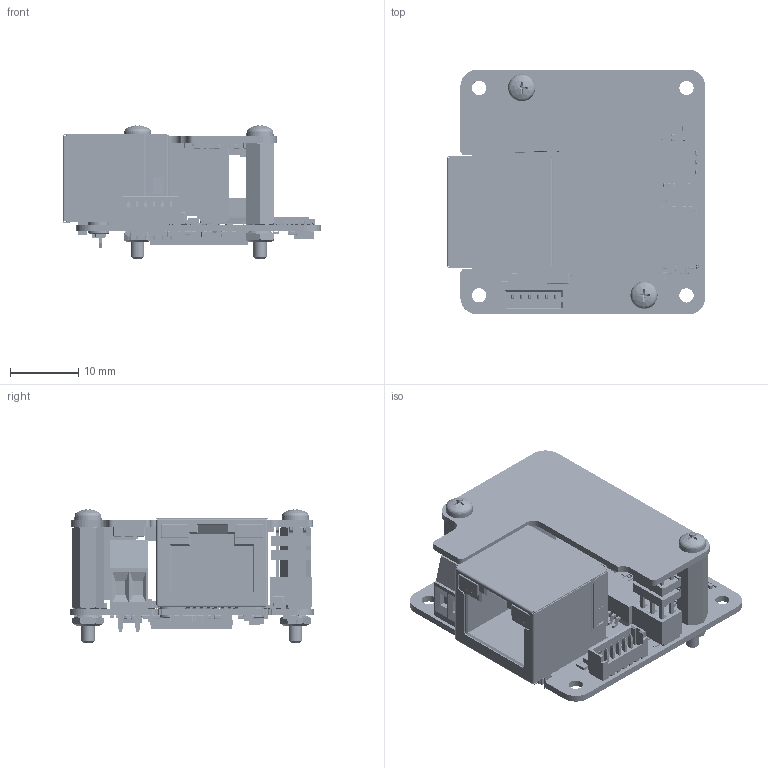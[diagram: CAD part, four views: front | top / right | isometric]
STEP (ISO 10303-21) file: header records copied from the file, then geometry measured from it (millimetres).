
FILE_DESCRIPTION(/* description */ ('ZB Platinen-Kamera'),/* implementation_level */ '2;1');
FILE_NAME(/* name */ 'KSM_306-23-20-00-00_ZB PlatinenKam_GigE-4SB_IMX676_PoE add-on.stp',/* time_stamp */ '2025-10-14T20:33:30+02:00',/* author */ ('khw'),/* organization */ ('TIS/ Germany'),/* preprocessor_version */ 'ST-DEVELOPER v20',/* originating_system */ 'Autodesk Inventor 2025',/* authorisation */ '520025 mm^3');
FILE_SCHEMA (('AUTOMOTIVE_DESIGN { 1 0 10303 214 3 1 1 }'));
Products named in the file (6): 306-23-20-00-00_ZB PlatinenKam_GigE-4SB_IMX676_PoE add-on; Sensorboard_4G-JE0-0110_GigE4-SB-IMX676_13-10-2025; PoE add-on-Board; IA-Distanzbolzen M2x1; Sechskanntmutter M2; Linsenschraube M2x4
Assembly tree (8 placements, depth 2):
  306-23-20-00-00_ZB PlatinenKam_GigE-4SB_IMX676_PoE add-on
    Linsenschraube M2x4  x2
    Sensorboard_4G-JE0-0110_GigE4-SB-IMX676_13-10-2025
    PoE add-on-Board
    IA-Distanzbolzen M2x1  x2
    Sechskanntmutter M2  x2
Bounding box: 37.99 x 36.01 x 19.59 mm (x, y, z)
Volume: 6996.7 mm3; surface area: 10622.7 mm2
Topology: 16 solids, 16 shells, 12593 faces, 29076 edges, 15248 vertices
Faces by surface type: cylinder 5412, plane 4413, sphere 1338, torus 1334, cone 62, bspline 34
Full cylindrical faces by diameter (mm): 0.3 x1, 0.5 x6, 0.739 x1, 1.05 x2, 1.2 x2, 1.567 x4, 1.783 x2, 2 x4, 2.032 x2, 2.1 x6, 2.3 x2
Entity records: 349938 total; most frequent: DIRECTION 63390, CARTESIAN_POINT 56668, ORIENTED_EDGE 55148, EDGE_CURVE 27574, AXIS2_PLACEMENT_3D 23429, LINE 16532, VECTOR 16532, VERTEX_POINT 15143
